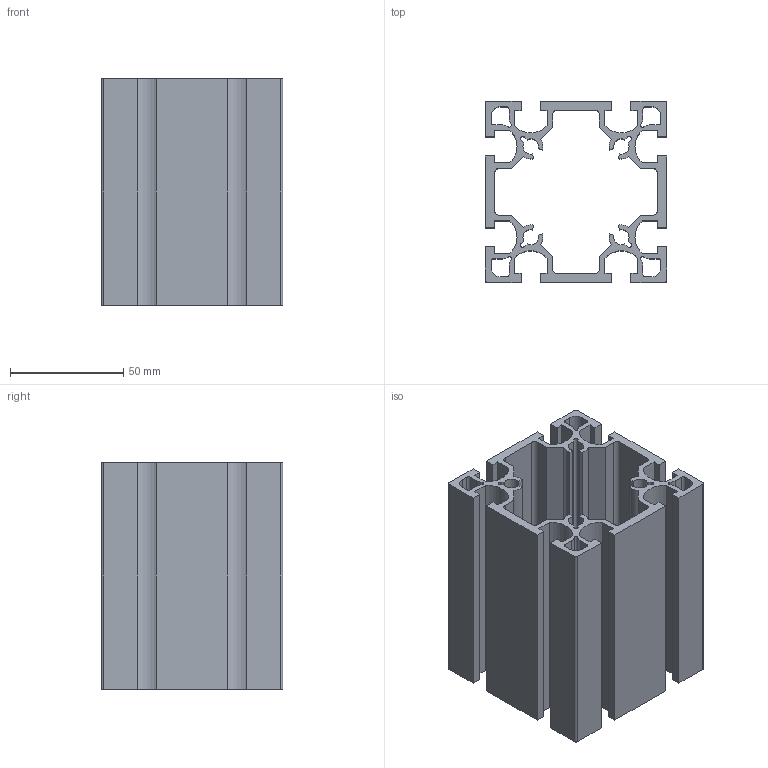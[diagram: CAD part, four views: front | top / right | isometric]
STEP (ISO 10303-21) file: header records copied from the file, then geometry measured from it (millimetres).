
FILE_DESCRIPTION (( 'STEP AP203' ), '1' );
FILE_NAME ('WS8080-8.STEP', '2024-02-19T05:23:27', ( '' ), ( '' ), 'SwSTEP 2.0', 'SolidWorks 2022', '' );
FILE_SCHEMA (( 'CONFIG_CONTROL_DESIGN' ));
Length unit declared in the file: millimetre
Products named in the file (1): WS8080-8
Bounding box: 80 x 80 x 100 mm (x, y, z)
Volume: 157785.6 mm3; surface area: 109881.1 mm2
Topology: 1 solids, 1 shells, 198 faces, 588 edges, 392 vertices
Faces by surface type: plane 114, cylinder 84
Entity records: 6757 total; most frequent: CARTESIAN_POINT 1179, ORIENTED_EDGE 1176, DIRECTION 1154, EDGE_CURVE 588, LINE 420, VECTOR 420, VERTEX_POINT 392, AXIS2_PLACEMENT_3D 367
